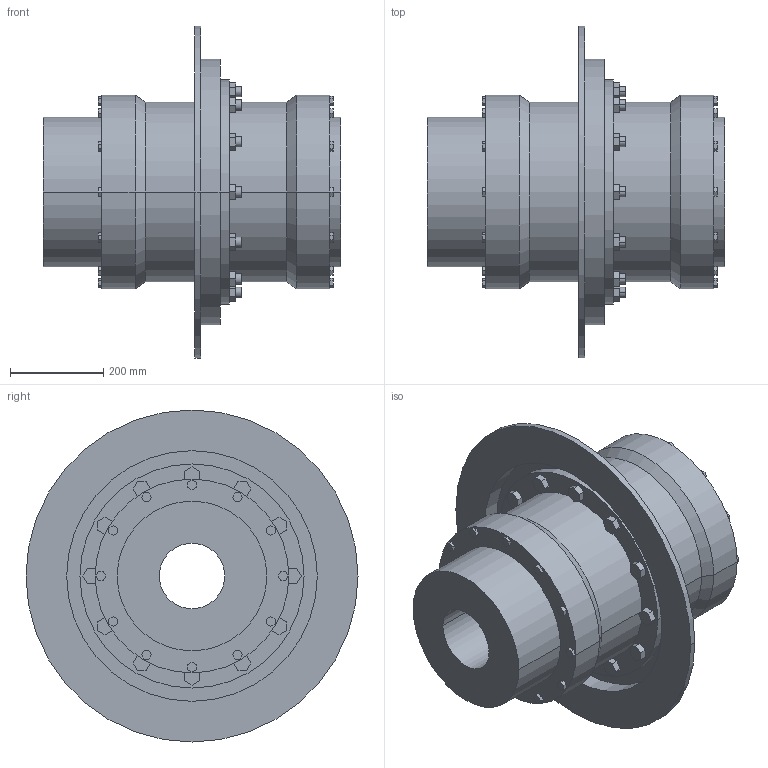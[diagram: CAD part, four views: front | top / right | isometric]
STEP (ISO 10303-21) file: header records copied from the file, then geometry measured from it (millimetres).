
FILE_DESCRIPTION((''),'2;1');
FILE_NAME('A19721500-0_ASM','2019-05-23T',('AB_Roschiwal'),('RENK AG'),'PRO/ENGINEER BY PARAMETRIC TECHNOLOGY CORPORATION, 2015440','PRO/ENGINEER BY PARAMETRIC TECHNOLOGY CORPORATION, 2015440','');
FILE_SCHEMA(('CONFIG_CONTROL_DESIGN'));
Length unit declared in the file: millimetre
Products named in the file (4): SBKT200_GEHAEUSE; SBKT200_NABE; SBKT200_BREMSSCHEIBE; A19721500-0_ASM
Assembly tree (4 placements, depth 2):
  A19721500-0_ASM
    SBKT200_GEHAEUSE
    SBKT200_NABE  x2
    SBKT200_BREMSSCHEIBE
Bounding box: 638 x 711 x 711 mm (x, y, z)
Volume: 56435816.7 mm3; surface area: 3423960.8 mm2
Topology: 4 solids, 4 shells, 470 faces, 1156 edges, 768 vertices
Faces by surface type: plane 370, cylinder 96, cone 4
Entity records: 13604 total; most frequent: CARTESIAN_POINT 2350, ORIENTED_EDGE 2264, DIRECTION 2240, EDGE_CURVE 1132, VECTOR 956, LINE 956, VERTEX_POINT 752, AXIS2_PLACEMENT_3D 642
